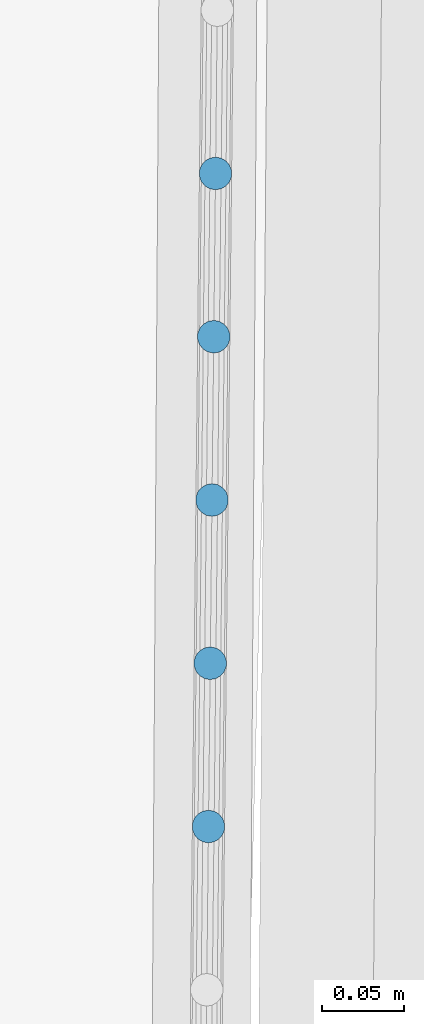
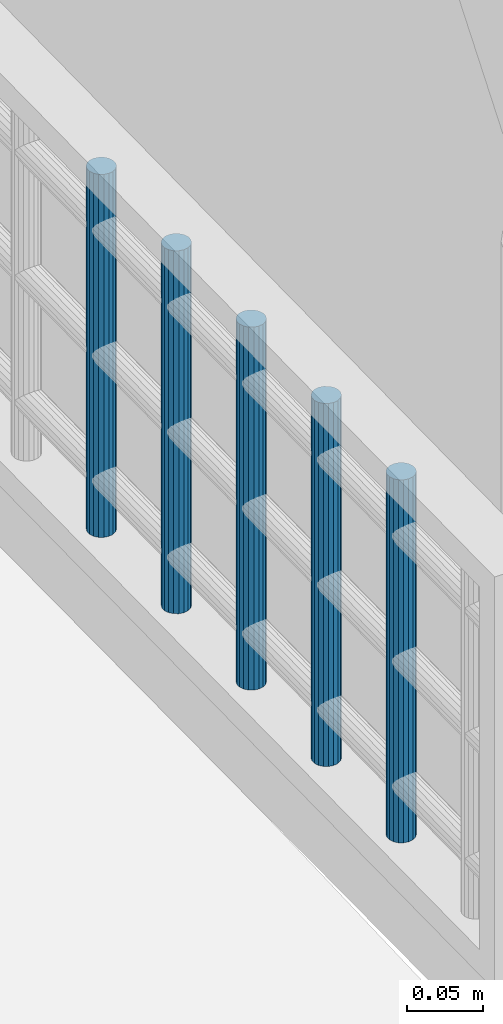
# One storey, part 36 of 97: 5 members, 1 element without a shape of its own.
"""IFC2X3 building model written with IfcOpenShell, lengths in centimetres."""

from ifc_helpers import new_model, entity, si_unit, converted_unit, direction, frame, origin, origin_with_axes, place, context, subcontext, project, spatial, faceted_brep, material, type_object, element, aggregate, save


model = new_model("IFC2X3")

# Units and contexts
model_context = context("Model", 3, precision=0.0001, world=origin(), true_north=direction((0.225632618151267, 0.974212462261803, 0.0)))
body_context = subcontext(model_context, "Body", "Model", "MODEL_VIEW")
ifc_project = project(units=[si_unit("LENGTHUNIT", "METRE", prefix="CENTI"), si_unit("AREAUNIT", "SQUARE_METRE", prefix="CENTI"), si_unit("VOLUMEUNIT", "CUBIC_METRE", prefix="CENTI"), converted_unit("PLANEANGLEUNIT", "DEGREE", entity("IfcRatioMeasure", 0.0174532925), si_unit("PLANEANGLEUNIT", "RADIAN"), dimensions=[0, 0, 0, 0, 0, 0, 0])], contexts=[model_context])

# Site, building, storey
site_placement = place(None, origin_with_axes())
site = spatial("IfcSite", under=ifc_project, at=site_placement, Name="Default Site", CompositionType="ELEMENT")
building_placement = place(site_placement, origin_with_axes())
building = spatial("IfcBuilding", under=site, at=building_placement, Name="Default Building", CompositionType="ELEMENT")
storey_placement = place(building_placement, origin_with_axes())
storey = spatial("IfcBuildingStorey", under=building, at=storey_placement, Name="Rez-de-chaussée", CompositionType="ELEMENT", Elevation=0.0)

# Assembly, members
building_element_proxy_type = type_object("IfcBuildingElementProxyType", Name="Type Object", PredefinedType="NOTDEFINED")
assembly_placement = place(storey_placement, frame((1067.41070761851, 134.057314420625, 12.0), z_axis=(0.0, 0.0, 1.0), x_axis=(-0.0108104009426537, -0.999941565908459, 0.0)))
assembly = element("IfcElementAssembly", 1, at=assembly_placement, inside=storey, type_object=building_element_proxy_type, Name="Panneau 1702033", ObjectType="Precast panel", PredefinedType="USERDEFINED")
ifc_material = material(Name="Aluminium satiné")
member_1_placement = place(assembly_placement, frame((86.9396924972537, 0.342020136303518, 31.0000002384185), z_axis=(0.0, 0.0, 1.0), x_axis=(0.499995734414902, -0.866027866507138, 0.0)))
member_1 = element("IfcMember", 2, at=member_1_placement, material=ifc_material, Name="4294967085", context=body_context, shape_type="Brep", body=[
    faceted_brep([(-1.02695629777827e-12, 5.88418203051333e-13, 4.9960036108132e-14), (-0.347295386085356, 5.88418203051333e-13, 4.9960036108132e-14), (-0.673647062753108, -0.118784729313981, 4.9960036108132e-14), (-0.939691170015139, -0.342025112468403, 4.9960036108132e-14), (-1.11333888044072, -0.642795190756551, 4.9960036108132e-14), (-1.17364232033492, -0.984811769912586, 4.9960036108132e-14), (-1.11333370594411, -1.32683238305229, 4.9960036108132e-14), (-0.939686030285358, -1.62760246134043, 4.9960036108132e-14), (-0.673637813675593, -1.85083429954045, 4.9960036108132e-14), (-0.34728809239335, -1.96961967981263, 4.9960036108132e-14), (1.02738977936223e-05, -1.96961451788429, 4.9960036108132e-14), (0.326361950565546, -1.85082978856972, 4.9960036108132e-14), (0.592403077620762, -1.62759456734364, 4.9960036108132e-14), (0.766050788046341, -1.32682448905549, 4.9960036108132e-14), (0.82635720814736, -0.984802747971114, 4.9960036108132e-14), (0.766048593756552, -0.64278213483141, 4.9960036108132e-14), (0.592397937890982, -0.342017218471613, 4.9960036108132e-14), (0.326352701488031, -0.118780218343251, 4.9960036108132e-14), (0.326352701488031, -0.118780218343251, -29.000000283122), (0.592397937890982, -0.342017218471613, -29.000000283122), (0.766048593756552, -0.64278213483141, -29.000000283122), (0.82635720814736, -0.984802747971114, -29.000000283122), (0.766050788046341, -1.32682448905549, -29.000000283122), (0.592403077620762, -1.62759456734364, -29.000000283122), (0.326361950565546, -1.85082978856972, -29.000000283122), (1.02738977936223e-05, -1.96961451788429, -29.000000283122), (-0.34728809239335, -1.96961967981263, -29.000000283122), (-0.673637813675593, -1.85083429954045, -29.000000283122), (-0.939686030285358, -1.62760246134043, -29.000000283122), (-1.11333370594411, -1.32683238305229, -29.000000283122), (-1.17364232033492, -0.984811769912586, -29.000000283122), (-1.11333888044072, -0.642795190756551, -29.000000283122), (-0.939691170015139, -0.342025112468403, -29.000000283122), (-0.673647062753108, -0.118784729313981, -29.000000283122), (-0.347295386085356, 5.88418203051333e-13, -29.000000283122), (-1.02695629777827e-12, 5.88418203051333e-13, -29.000000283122), (0.592398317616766, -0.342016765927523, 4.9960036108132e-14), (0.592398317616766, -0.342016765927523, -29.000000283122), (0.766047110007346, -0.642782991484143, 4.9960036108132e-14), (0.766047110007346, -0.642782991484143, -29.000000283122), (0.826357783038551, -0.984802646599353, 4.9960036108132e-14), (0.826357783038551, -0.984802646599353, -29.000000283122), (0.766051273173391, -1.32682457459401, 4.9960036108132e-14), (0.766051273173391, -1.32682457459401, -29.000000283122), (0.592403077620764, -1.62759456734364, 4.9960036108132e-14), (0.592403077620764, -1.62759456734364, -29.000000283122), (0.326362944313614, -1.85083097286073, 4.9960036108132e-14), (0.326362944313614, -1.85083097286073, -29.000000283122), (1.00742373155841e-05, -1.96961396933, 4.9960036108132e-14), (1.00742373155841e-05, -1.96961396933, -29.000000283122), (-0.347288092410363, -1.96961623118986, 4.9960036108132e-14), (-0.347288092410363, -1.96961623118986, -29.000000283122), (-0.673639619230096, -1.85083926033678, 4.9960036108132e-14), (-0.673639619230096, -1.85083926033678, -29.000000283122), (-0.939682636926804, -1.62759841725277, 4.9960036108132e-14), (-0.939682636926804, -1.62759841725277, -29.000000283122), (-1.11333669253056, -1.32683410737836, 4.9960036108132e-14), (-1.11333669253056, -1.32683410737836, -29.000000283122), (-1.17364289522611, -0.984811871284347, 4.9960036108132e-14), (-1.17364289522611, -0.984811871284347, -29.000000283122), (-1.11333735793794, -0.642795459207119, 4.9960036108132e-14), (-1.11333735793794, -0.642795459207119, -29.000000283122), (-0.939691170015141, -0.342025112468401, 4.9960036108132e-14), (-0.939691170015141, -0.342025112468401, -29.000000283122), (-0.673646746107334, -0.118785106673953, 4.9960036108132e-14), (-0.673646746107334, -0.118785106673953, -29.000000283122), (-0.347295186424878, -5.4855369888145e-07, 4.9960036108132e-14), (-0.347295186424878, -5.4855369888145e-07, -29.000000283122), (-9.47902830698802e-12, 1.7132914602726e-06, 4.9960036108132e-14), (-9.47902830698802e-12, 1.7132914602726e-06, -29.000000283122), (0.326352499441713, -0.118780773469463, 4.9960036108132e-14), (0.326352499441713, -0.118780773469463, -29.000000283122)], [[[0, 1, 2, 3, 4, 5, 6, 7, 8, 9, 10, 11, 12, 13, 14, 15, 16, 17]], [[18, 19, 20, 21, 22, 23, 24, 25, 26, 27, 28, 29, 30, 31, 32, 33, 34, 35]], [[17, 36, 37, 18]], [[16, 38, 39, 19]], [[15, 40, 41, 20]], [[14, 42, 43, 21]], [[13, 44, 45, 22]], [[12, 46, 47, 23]], [[11, 48, 49, 24]], [[10, 50, 51, 25]], [[9, 52, 53, 26]], [[8, 54, 55, 27]], [[7, 56, 57, 28]], [[6, 58, 59, 29]], [[5, 60, 61, 30]], [[4, 62, 63, 31]], [[3, 64, 65, 32]], [[2, 66, 67, 33]], [[1, 68, 69, 34]], [[0, 70, 71, 35]]]),
])
member_2_placement = place(assembly_placement, frame((96.9396948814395, 0.342020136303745, 31.0000002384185), z_axis=(0.0, 0.0, 1.0), x_axis=(0.500008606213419, -0.866020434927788, 0.0)))
member_2 = element("IfcMember", 3, at=member_2_placement, material=ifc_material, Name="4294967084", context=body_context, shape_type="Brep", body=[
    faceted_brep([(-1.22124532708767e-12, 6.66133814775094e-13, 3.88578058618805e-14), (-0.347298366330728, 6.43929354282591e-13, 3.88578058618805e-14), (-0.673651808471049, -0.1187798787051, 3.88578058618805e-14), (-0.939696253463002, -0.342011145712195, 3.88578058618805e-14), (-1.1133484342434, -0.642778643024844, 3.88578058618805e-14), (-1.17365993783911, -0.984799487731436, 3.88578058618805e-14), (-1.11335640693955, -1.32682099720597, 3.88578058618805e-14), (-0.939710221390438, -1.62758849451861, 3.88578058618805e-14), (-0.673668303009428, -1.85082944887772, 3.88578058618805e-14), (-0.347317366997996, -1.96961451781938, 3.88578058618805e-14), (-2.19809520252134e-05, -1.9696196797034, 3.88578058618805e-14), (0.326331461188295, -1.85083980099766, 3.88578058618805e-14), (0.592378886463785, -1.62760337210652, 3.88578058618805e-14), (0.766031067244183, -1.32683587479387, 3.88578058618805e-14), (0.826339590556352, -0.984820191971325, 3.88578058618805e-14), (0.766036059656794, -0.642798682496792, 3.88578058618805e-14), (0.592392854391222, -0.342026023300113, 3.88578058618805e-14), (0.326350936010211, -0.118785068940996, 3.88578058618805e-14), (0.326350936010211, -0.118785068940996, -29.000000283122), (0.592392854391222, -0.342026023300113, -29.000000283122), (0.766036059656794, -0.642798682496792, -29.000000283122), (0.826339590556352, -0.984820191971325, -29.000000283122), (0.766031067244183, -1.32683587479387, -29.000000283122), (0.592378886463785, -1.62760337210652, -29.000000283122), (0.326331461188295, -1.85083980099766, -29.000000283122), (-2.19809520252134e-05, -1.9696196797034, -29.000000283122), (-0.347317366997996, -1.96961451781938, -29.000000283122), (-0.673668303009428, -1.85082944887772, -29.000000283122), (-0.939710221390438, -1.62758849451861, -29.000000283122), (-1.11335640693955, -1.32682099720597, -29.000000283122), (-1.17365993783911, -0.984799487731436, -29.000000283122), (-1.1133484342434, -0.642778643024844, -29.000000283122), (-0.939696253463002, -0.342011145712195, -29.000000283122), (-0.673651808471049, -0.1187798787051, -29.000000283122), (-0.347298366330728, 6.43929354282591e-13, -29.000000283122), (-1.22124532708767e-12, 6.66133814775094e-13, -29.000000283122), (0.592393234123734, -0.342025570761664, 3.88578058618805e-14), (0.592393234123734, -0.342025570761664, -29.000000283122), (0.766039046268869, -0.642796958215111, 3.88578058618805e-14), (0.766039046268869, -0.642796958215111, -29.000000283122), (0.826340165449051, -0.984820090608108, 3.88578058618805e-14), (0.826340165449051, -0.984820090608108, -29.000000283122), (0.766029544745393, -1.32683560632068, 3.88578058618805e-14), (0.766029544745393, -1.32683560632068, -29.000000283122), (0.592378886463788, -1.62760337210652, 3.88578058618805e-14), (0.592378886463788, -1.62760337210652, -29.000000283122), (0.326331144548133, -1.85083942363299, 3.88578058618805e-14), (0.326331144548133, -1.85083942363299, -29.000000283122), (-2.21806043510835e-05, -1.96961913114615, 3.88578058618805e-14), (-2.21806043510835e-05, -1.96961913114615, -29.000000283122), (-0.347317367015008, -1.96961623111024, 3.88578058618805e-14), (-0.347317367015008, -1.96961623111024, -29.000000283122), (-0.673668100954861, -1.85082889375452, 3.88578058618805e-14), (-0.673668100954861, -1.85082889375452, -29.000000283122), (-0.939710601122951, -1.62758894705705, 3.88578058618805e-14), (-0.939710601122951, -1.62758894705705, -29.000000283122), (-1.11335492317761, -1.32682014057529, 3.88578058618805e-14), (-1.11335492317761, -1.32682014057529, -29.000000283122), (-1.1736605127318, -0.984799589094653, 3.88578058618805e-14), (-1.1736605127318, -0.984799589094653, -29.000000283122), (-1.11334891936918, -0.642778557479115, 3.88578058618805e-14), (-1.11334891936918, -0.642778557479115, -29.000000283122), (-0.939696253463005, -0.342011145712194, 3.88578058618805e-14), (-0.939696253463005, -0.342011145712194, -29.000000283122), (-0.673652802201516, -0.118778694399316, 3.88578058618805e-14), (-0.673652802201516, -0.118778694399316, -29.000000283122), (-0.347298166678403, -5.48556613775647e-07, 3.88578058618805e-14), (-0.347298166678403, -5.48556613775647e-07, -29.000000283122), (-3.54655727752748e-11, -3.44862211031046e-06, 3.88578058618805e-14), (-3.54655727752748e-11, -3.44862211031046e-06, -29.000000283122), (0.326350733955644, -0.118785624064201, 3.88578058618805e-14), (0.326350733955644, -0.118785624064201, -29.000000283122)], [[[0, 1, 2, 3, 4, 5, 6, 7, 8, 9, 10, 11, 12, 13, 14, 15, 16, 17]], [[18, 19, 20, 21, 22, 23, 24, 25, 26, 27, 28, 29, 30, 31, 32, 33, 34, 35]], [[17, 36, 37, 18]], [[16, 38, 39, 19]], [[15, 40, 41, 20]], [[14, 42, 43, 21]], [[13, 44, 45, 22]], [[12, 46, 47, 23]], [[11, 48, 49, 24]], [[10, 50, 51, 25]], [[9, 52, 53, 26]], [[8, 54, 55, 27]], [[7, 56, 57, 28]], [[6, 58, 59, 29]], [[5, 60, 61, 30]], [[4, 62, 63, 31]], [[3, 64, 65, 32]], [[2, 66, 67, 33]], [[1, 68, 69, 34]], [[0, 70, 71, 35]]]),
])
member_3_placement = place(assembly_placement, frame((106.939697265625, 0.342020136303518, 31.0000002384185), z_axis=(0.0, 0.0, 1.0), x_axis=(0.500008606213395, -0.866020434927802, 0.0)))
member_3 = element("IfcMember", 4, at=member_3_placement, material=ifc_material, Name="4294967083", context=body_context, shape_type="Brep", body=[
    faceted_brep([(-1.15463194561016e-12, 6.10622663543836e-13, 4.9960036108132e-14), (-0.347298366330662, 5.88418203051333e-13, 4.9960036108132e-14), (-0.673648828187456, -0.118774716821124, 4.9960036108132e-14), (-0.939699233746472, -0.342016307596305, 4.9960036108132e-14), (-1.11334843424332, -0.642778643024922, 4.9960036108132e-14), (-1.17366291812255, -0.984804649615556, 4.9960036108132e-14), (-1.11335640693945, -1.32682099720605, 4.9960036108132e-14), (-0.939713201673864, -1.62759365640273, 4.9960036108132e-14), (-0.673671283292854, -1.85083461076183, 4.9960036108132e-14), (-0.34732034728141, -1.96961967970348, 4.9960036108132e-14), (-2.19809519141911e-05, -1.96961967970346, 4.9960036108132e-14), (0.326328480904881, -1.85084496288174, 4.9960036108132e-14), (0.592378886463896, -1.62760337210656, 4.9960036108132e-14), (0.766028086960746, -1.32684103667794, 4.9960036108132e-14), (0.826342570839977, -0.984815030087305, 4.9960036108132e-14), (0.766036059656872, -0.642798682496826, 4.9960036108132e-14), (0.592392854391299, -0.342026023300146, 4.9960036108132e-14), (0.326350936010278, -0.118785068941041, 4.9960036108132e-14), (0.326350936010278, -0.118785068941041, -29.000000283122), (0.592392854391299, -0.342026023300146, -29.000000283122), (0.766036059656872, -0.642798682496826, -29.000000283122), (0.826342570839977, -0.984815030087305, -29.000000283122), (0.766028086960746, -1.32684103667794, -29.000000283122), (0.592378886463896, -1.62760337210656, -29.000000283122), (0.326328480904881, -1.85084496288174, -29.000000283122), (-2.19809519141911e-05, -1.96961967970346, -29.000000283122), (-0.34732034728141, -1.96961967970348, -29.000000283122), (-0.673671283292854, -1.85083461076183, -29.000000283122), (-0.939713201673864, -1.62759365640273, -29.000000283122), (-1.11335640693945, -1.32682099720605, -29.000000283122), (-1.17366291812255, -0.984804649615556, -29.000000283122), (-1.11334843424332, -0.642778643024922, -29.000000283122), (-0.939699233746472, -0.342016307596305, -29.000000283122), (-0.673648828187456, -0.118774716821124, -29.000000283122), (-0.347298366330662, 5.88418203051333e-13, -29.000000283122), (-1.15463194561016e-12, 6.10622663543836e-13, -29.000000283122), (0.592393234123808, -0.342025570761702, 4.9960036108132e-14), (0.592393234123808, -0.342025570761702, -29.000000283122), (0.766039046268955, -0.642796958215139, 4.9960036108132e-14), (0.766039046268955, -0.642796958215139, -29.000000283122), (0.826339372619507, -0.984815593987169, 4.9960036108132e-14), (0.826339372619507, -0.984815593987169, -29.000000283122), (0.766030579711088, -1.32684147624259, 4.9960036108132e-14), (0.766030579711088, -1.32684147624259, -29.000000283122), (0.592378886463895, -1.62760337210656, 4.9960036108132e-14), (0.592378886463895, -1.62760337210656, -29.000000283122), (0.326326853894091, -1.85084302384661, 4.9960036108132e-14), (0.326326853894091, -1.85084302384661, -29.000000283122), (-2.08702539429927e-05, -1.96962273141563, 4.9960036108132e-14), (-2.08702539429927e-05, -1.96962273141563, -29.000000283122), (-0.347320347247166, -1.96961623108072, 4.9960036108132e-14), (-0.347320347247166, -1.96961623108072, -29.000000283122), (-0.673671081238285, -1.85083405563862, 4.9960036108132e-14), (-0.673671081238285, -1.85083405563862, -29.000000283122), (-0.939713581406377, -1.62759410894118, 4.9960036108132e-14), (-0.939713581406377, -1.62759410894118, -29.000000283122), (-1.11335939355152, -1.32682272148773, 4.9960036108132e-14), (-1.11335939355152, -1.32682272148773, -29.000000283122), (-1.17365971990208, -0.984804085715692, 4.9960036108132e-14), (-1.17365971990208, -0.984804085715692, -29.000000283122), (-1.11335092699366, -0.642778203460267, 4.9960036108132e-14), (-1.11335092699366, -0.642778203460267, -29.000000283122), (-0.939699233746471, -0.342016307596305, 4.9960036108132e-14), (-0.939699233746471, -0.342016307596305, -29.000000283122), (-0.673647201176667, -0.118776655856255, 4.9960036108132e-14), (-0.673647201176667, -0.118776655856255, -29.000000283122), (-0.347299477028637, 3.05171277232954e-06, 4.9960036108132e-14), (-0.347299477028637, 3.05171277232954e-06, -29.000000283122), (-3.53989592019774e-11, -3.44862215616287e-06, 4.9960036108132e-14), (-3.53989592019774e-11, -3.44862215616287e-06, -29.000000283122), (0.326350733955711, -0.118785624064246, 4.9960036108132e-14), (0.326350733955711, -0.118785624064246, -29.000000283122)], [[[0, 1, 2, 3, 4, 5, 6, 7, 8, 9, 10, 11, 12, 13, 14, 15, 16, 17]], [[18, 19, 20, 21, 22, 23, 24, 25, 26, 27, 28, 29, 30, 31, 32, 33, 34, 35]], [[17, 36, 37, 18]], [[16, 38, 39, 19]], [[15, 40, 41, 20]], [[14, 42, 43, 21]], [[13, 44, 45, 22]], [[12, 46, 47, 23]], [[11, 48, 49, 24]], [[10, 50, 51, 25]], [[9, 52, 53, 26]], [[8, 54, 55, 27]], [[7, 56, 57, 28]], [[6, 58, 59, 29]], [[5, 60, 61, 30]], [[4, 62, 63, 31]], [[3, 64, 65, 32]], [[2, 66, 67, 33]], [[1, 68, 69, 34]], [[0, 70, 71, 35]]]),
])
member_4_placement = place(assembly_placement, frame((116.939687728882, 0.342020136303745, 31.0000002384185), z_axis=(0.0, 0.0, 1.0), x_axis=(0.499982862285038, -0.866035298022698, 0.0)))
member_4 = element("IfcMember", 5, at=member_4_placement, material=ifc_material, Name="4294967082", context=body_context, shape_type="Brep", body=[
    faceted_brep([(-9.88098491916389e-13, 5.10702591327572e-13, 5.55111512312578e-14), (-0.347292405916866, 5.10702591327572e-13, 5.55111512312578e-14), (-0.673645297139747, -0.118794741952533, 5.55111512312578e-14), (-0.939683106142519, -0.34203391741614, 5.55111512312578e-14), (-1.11332336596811, -0.642801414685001, 5.55111512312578e-14), (-1.17362768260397, -0.984829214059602, 5.55111512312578e-14), (-1.11331100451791, -1.32684376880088, 5.55111512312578e-14), (-0.939658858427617, -1.62761126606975, 5.55111512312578e-14), (-0.673610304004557, -1.8508443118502, 5.55111512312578e-14), (-0.347255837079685, -1.96961967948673, 5.55111512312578e-14), (4.25290963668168e-05, -1.96960935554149, 5.55111512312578e-14), (0.326389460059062, -1.85082493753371, 5.55111512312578e-14), (0.59243322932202, -1.62757543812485, 5.55111512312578e-14), (0.766073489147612, -1.32680794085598, 5.55111512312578e-14), (0.826371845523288, -0.984790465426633, 5.55111512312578e-14), (0.766061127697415, -0.642765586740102, 5.55111512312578e-14), (0.592403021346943, -0.342008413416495, 5.55111512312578e-14), (0.326354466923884, -0.118775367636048, 5.55111512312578e-14), (0.326354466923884, -0.118775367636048, -29.000000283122), (0.592403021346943, -0.342008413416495, -29.000000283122), (0.766061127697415, -0.642765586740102, -29.000000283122), (0.826371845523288, -0.984790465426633, -29.000000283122), (0.766073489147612, -1.32680794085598, -29.000000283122), (0.59243322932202, -1.62757543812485, -29.000000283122), (0.326389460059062, -1.85082493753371, -29.000000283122), (4.25290963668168e-05, -1.96960935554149, -29.000000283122), (-0.347255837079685, -1.96961967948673, -29.000000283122), (-0.673610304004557, -1.8508443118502, -29.000000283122), (-0.939658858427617, -1.62761126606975, -29.000000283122), (-1.11331100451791, -1.32684376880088, -29.000000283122), (-1.17362768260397, -0.984829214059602, -29.000000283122), (-1.11332336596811, -0.642801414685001, -29.000000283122), (-0.939683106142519, -0.34203391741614, -29.000000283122), (-0.673645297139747, -0.118794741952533, -29.000000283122), (-0.347292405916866, 5.10702591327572e-13, -29.000000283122), (-9.88098491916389e-13, 5.10702591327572e-13, -29.000000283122), (0.592403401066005, -0.342007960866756, 5.55111512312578e-14), (0.592403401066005, -0.342007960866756, -29.000000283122), (0.766055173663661, -0.64276902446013, 5.55111512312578e-14), (0.766055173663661, -0.64276902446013, -29.000000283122), (0.826376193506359, -0.984789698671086, 5.55111512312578e-14), (0.826376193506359, -0.984789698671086, -29.000000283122), (0.766071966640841, -1.32680767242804, 5.55111512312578e-14), (0.766071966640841, -1.32680767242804, -29.000000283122), (0.592433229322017, -1.62757543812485, 5.55111512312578e-14), (0.592433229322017, -1.62757543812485, -29.000000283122), (0.326387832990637, -1.85082299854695, 5.55111512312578e-14), (0.326387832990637, -1.85082299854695, -29.000000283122), (4.36398850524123e-05, -1.96961240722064, 5.55111512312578e-14), (4.36398850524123e-05, -1.96961240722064, -29.000000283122), (-0.347255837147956, -1.96961623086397, 5.55111512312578e-14), (-0.347255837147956, -1.96961623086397, -29.000000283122), (-0.67361010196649, -1.85084375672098, 5.55111512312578e-14), (-0.67361010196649, -1.85084375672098, -29.000000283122), (-0.939659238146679, -1.62761171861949, 5.55111512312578e-14), (-0.939659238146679, -1.62761171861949, -29.000000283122), (-1.11331399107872, -1.32684549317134, 5.55111512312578e-14), (-1.11331399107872, -1.32684549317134, -29.000000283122), (-1.17362448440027, -0.984828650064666, 5.55111512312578e-14), (-1.17362448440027, -0.984828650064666, -29.000000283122), (-1.11332585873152, -0.642800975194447, 5.55111512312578e-14), (-1.11332585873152, -0.642800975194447, -29.000000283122), (-0.939683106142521, -0.342033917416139, 5.55111512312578e-14), (-0.939683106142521, -0.342033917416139, -29.000000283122), (-0.673646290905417, -0.118793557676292, 5.55111512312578e-14), (-0.673646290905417, -0.118793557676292, -29.000000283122), (-0.347290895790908, -4.14878130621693e-06, 5.55111512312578e-14), (-0.347290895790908, -4.14878130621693e-06, -29.000000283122), (-1.37093685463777e-10, 6.87520499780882e-06, 5.55111512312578e-14), (-1.37093685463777e-10, 6.87520499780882e-06, -29.000000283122), (0.326354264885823, -0.118775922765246, 5.55111512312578e-14), (0.326354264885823, -0.118775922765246, -29.000000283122)], [[[0, 1, 2, 3, 4, 5, 6, 7, 8, 9, 10, 11, 12, 13, 14, 15, 16, 17]], [[18, 19, 20, 21, 22, 23, 24, 25, 26, 27, 28, 29, 30, 31, 32, 33, 34, 35]], [[17, 36, 37, 18]], [[16, 38, 39, 19]], [[15, 40, 41, 20]], [[14, 42, 43, 21]], [[13, 44, 45, 22]], [[12, 46, 47, 23]], [[11, 48, 49, 24]], [[10, 50, 51, 25]], [[9, 52, 53, 26]], [[8, 54, 55, 27]], [[7, 56, 57, 28]], [[6, 58, 59, 29]], [[5, 60, 61, 30]], [[4, 62, 63, 31]], [[3, 64, 65, 32]], [[2, 66, 67, 33]], [[1, 68, 69, 34]], [[0, 70, 71, 35]]]),
])
member_5_placement = place(assembly_placement, frame((126.939690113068, 0.342020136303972, 31.0000002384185), z_axis=(0.0, 0.0, 1.0), x_axis=(0.499982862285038, -0.866035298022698, 0.0)))
member_5 = element("IfcMember", 6, at=member_5_placement, material=ifc_material, Name="4294967081", context=body_context, shape_type="Brep", body=[
    faceted_brep([(-9.88098491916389e-13, 4.88498130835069e-13, 5.55111512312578e-14), (-0.347292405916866, 4.88498130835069e-13, 5.55111512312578e-14), (-0.673645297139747, -0.118794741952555, 5.55111512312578e-14), (-0.939683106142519, -0.342033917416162, 5.55111512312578e-14), (-1.11332932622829, -0.642811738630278, 5.55111512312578e-14), (-1.17362768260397, -0.984829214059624, 5.55111512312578e-14), (-1.11331100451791, -1.3268437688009, 5.55111512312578e-14), (-0.939658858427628, -1.62761126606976, 5.55111512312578e-14), (-0.673610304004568, -1.85084431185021, 5.55111512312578e-14), (-0.347255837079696, -1.96961967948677, 5.55111512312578e-14), (4.25290963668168e-05, -1.96960935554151, 5.55111512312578e-14), (0.326389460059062, -1.85082493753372, 5.55111512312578e-14), (0.592427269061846, -1.62758576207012, 5.55111512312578e-14), (0.766073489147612, -1.326807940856, 5.55111512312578e-14), (0.826371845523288, -0.984790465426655, 5.55111512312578e-14), (0.766061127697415, -0.642765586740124, 5.55111512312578e-14), (0.592403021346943, -0.342008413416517, 5.55111512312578e-14), (0.326354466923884, -0.118775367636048, 5.55111512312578e-14), (0.326354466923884, -0.118775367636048, -29.000000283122), (0.592403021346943, -0.342008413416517, -29.000000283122), (0.766061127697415, -0.642765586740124, -29.000000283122), (0.826371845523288, -0.984790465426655, -29.000000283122), (0.766073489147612, -1.326807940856, -29.000000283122), (0.592427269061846, -1.62758576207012, -29.000000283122), (0.326389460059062, -1.85082493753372, -29.000000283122), (4.25290963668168e-05, -1.96960935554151, -29.000000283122), (-0.347255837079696, -1.96961967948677, -29.000000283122), (-0.673610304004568, -1.85084431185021, -29.000000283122), (-0.939658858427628, -1.62761126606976, -29.000000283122), (-1.11331100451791, -1.3268437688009, -29.000000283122), (-1.17362768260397, -0.984829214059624, -29.000000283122), (-1.11332932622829, -0.642811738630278, -29.000000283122), (-0.939683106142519, -0.342033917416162, -29.000000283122), (-0.673645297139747, -0.118794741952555, -29.000000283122), (-0.347292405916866, 4.88498130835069e-13, -29.000000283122), (-9.88098491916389e-13, 4.88498130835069e-13, -29.000000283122), (0.592403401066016, -0.342007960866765, 5.55111512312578e-14), (0.592403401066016, -0.342007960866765, -29.000000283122), (0.766055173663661, -0.642769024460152, 5.55111512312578e-14), (0.766055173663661, -0.642769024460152, -29.000000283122), (0.826376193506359, -0.984789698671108, 5.55111512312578e-14), (0.826376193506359, -0.984789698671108, -29.000000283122), (0.766071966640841, -1.32680767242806, 5.55111512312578e-14), (0.766071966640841, -1.32680767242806, -29.000000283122), (0.326390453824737, -1.85082612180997, 5.55111512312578e-14), (0.326390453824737, -1.85082612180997, -29.000000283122), (4.36398850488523e-05, -1.96961240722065, 5.55111512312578e-14), (4.36398850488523e-05, -1.96961240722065, -29.000000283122), (-0.347255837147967, -1.969616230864, 5.55111512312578e-14), (-0.347255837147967, -1.969616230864, -29.000000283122), (-0.673610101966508, -1.85084375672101, 5.55111512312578e-14), (-0.673610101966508, -1.85084375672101, -29.000000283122), (-0.93965923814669, -1.6276117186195, 5.55111512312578e-14), (-0.93965923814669, -1.6276117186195, -29.000000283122), (-1.11331399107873, -1.32684549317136, 5.55111512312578e-14), (-1.11331399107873, -1.32684549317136, -29.000000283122), (-1.17362448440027, -0.984828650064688, 5.55111512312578e-14), (-1.17362448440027, -0.984828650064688, -29.000000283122), (-1.11332780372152, -0.642812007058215, 5.55111512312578e-14), (-1.11332780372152, -0.642812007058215, -29.000000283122), (-0.673646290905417, -0.118793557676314, 5.55111512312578e-14), (-0.673646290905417, -0.118793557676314, -29.000000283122), (-0.347290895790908, -4.14878132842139e-06, 5.55111512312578e-14), (-0.347290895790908, -4.14878132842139e-06, -29.000000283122), (-1.37093685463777e-10, 6.87520497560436e-06, 5.55111512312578e-14), (-1.37093685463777e-10, 6.87520497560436e-06, -29.000000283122), (0.326354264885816, -0.118775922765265, 5.55111512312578e-14), (0.326354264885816, -0.118775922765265, -29.000000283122)], [[[0, 1, 2, 3, 4, 5, 6, 7, 8, 9, 10, 11, 12, 13, 14, 15, 16, 17]], [[18, 19, 20, 21, 22, 23, 24, 25, 26, 27, 28, 29, 30, 31, 32, 33, 34, 35]], [[17, 36, 37, 18]], [[16, 38, 39, 19]], [[15, 40, 41, 20]], [[14, 42, 43, 21]], [[13, 12, 23, 22]], [[12, 44, 45, 23]], [[11, 46, 47, 24]], [[10, 48, 49, 25]], [[9, 50, 51, 26]], [[8, 52, 53, 27]], [[7, 54, 55, 28]], [[6, 56, 57, 29]], [[5, 58, 59, 30]], [[4, 3, 32, 31]], [[3, 60, 61, 32]], [[2, 62, 63, 33]], [[1, 64, 65, 34]], [[0, 66, 67, 35]]]),
])
aggregate(assembly, [member_1, member_2, member_3, member_4, member_5])

save(model, "model.ifc")
